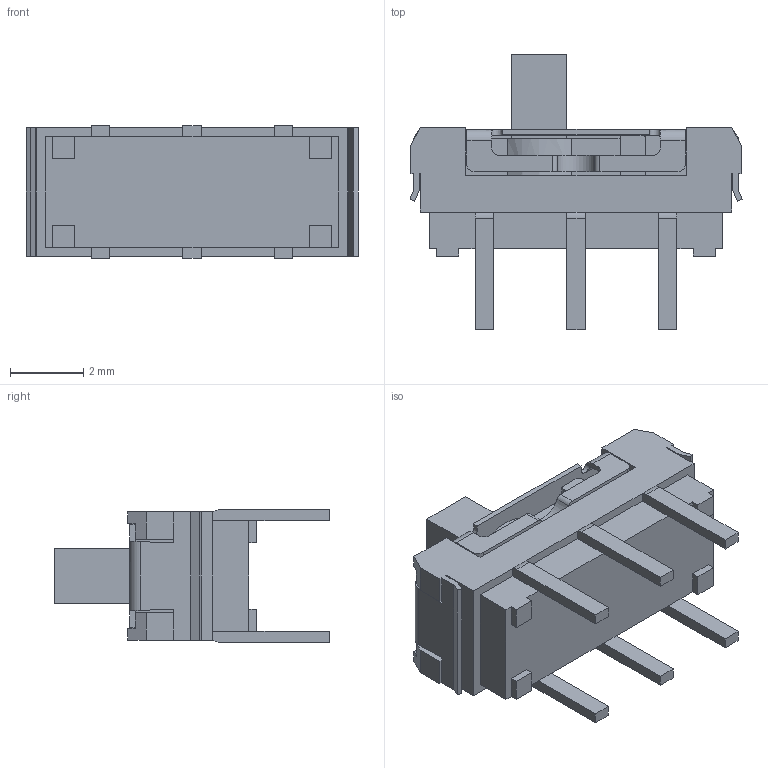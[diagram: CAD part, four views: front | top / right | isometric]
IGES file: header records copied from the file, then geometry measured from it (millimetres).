
Start section:  PTC IGES file: NSS524-022N-ABBD1B-B.igs
Global section: file name: NSS524-022N-ABBD1B-B.igs; native system: Pro/ENGINEER by Parametric Technology Corporation; preprocessor: 2008230; author: Rd-Ken; organization: Unknown; date: 20111018.152152; units: millimetre
Bounding box: 9.05 x 7.5 x 3.6 mm (x, y, z)
Volume: 72.6 mm3; surface area: 339.5 mm2
Topology: 1 solids, 1 shells, 261 faces, 784 edges, 500 vertices
Faces by surface type: bspline 217, revolution 44
